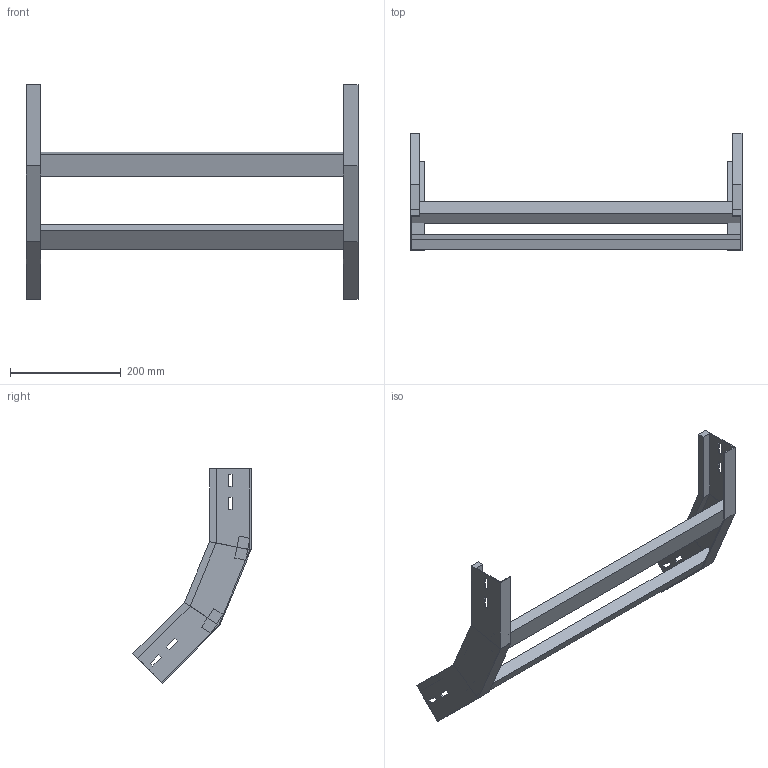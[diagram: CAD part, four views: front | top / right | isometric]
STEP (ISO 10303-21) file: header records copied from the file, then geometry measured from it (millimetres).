
FILE_DESCRIPTION (( 'STEP AP214' ), '1' );
FILE_NAME ('A2X31B3C600XX.step', '2025-03-20T10:09:07', ( '' ), ( '' ), 'SwSTEP 2.0', 'SolidWorks 2023', '' );
FILE_SCHEMA (( 'AUTOMOTIVE_DESIGN' ));
Length unit declared in the file: millimetre
Products named in the file (3): TRAVERSINO_600; A2X31B3C600XX; LONGH.SALITA_45°_H75_R300
Assembly tree (4 placements, depth 2):
  A2X31B3C600XX
    LONGH.SALITA_45°_H75_R300  x2
    TRAVERSINO_600  x2
Bounding box: 600 x 213.56 x 387.55 mm (x, y, z)
Volume: 1279315.1 mm3; surface area: 343250.7 mm2
Topology: 4 solids, 4 shells, 96 faces, 232 edges, 144 vertices
Faces by surface type: plane 96
Entity records: 1472 total; most frequent: CARTESIAN_POINT 243, ORIENTED_EDGE 232, DIRECTION 226, VECTOR 116, EDGE_CURVE 116, LINE 116, VERTEX_POINT 72, EDGE_LOOP 56
